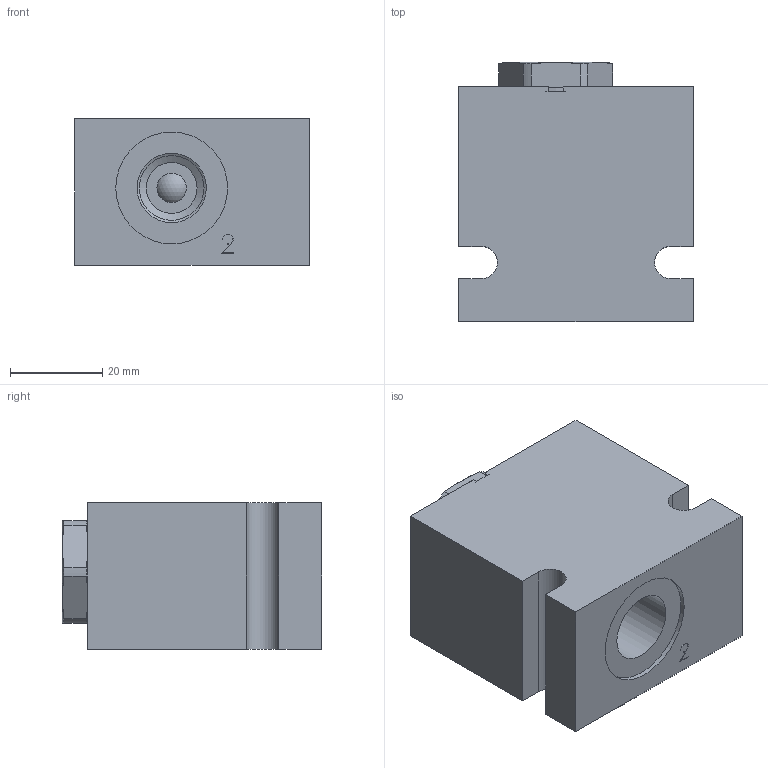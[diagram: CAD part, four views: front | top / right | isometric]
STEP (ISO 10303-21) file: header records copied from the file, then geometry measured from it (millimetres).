
FILE_DESCRIPTION( ( 'Unknown' ), '1' );
FILE_NAME( 'G:/Graphic Design/Graphic Design 2/Data Sheets/MANUAL_MECH OPERATED VALVES/4_STEP/Direct Acting Check Valves/D-PBCVC00-B2.stp', 'Unknown', ( 'Unknown' ), ( 'Unknown' ), 'PSStep 16.0.42', 'Unknown', ' ' );
FILE_SCHEMA( ( 'AUTOMOTIVE_DESIGN { 1 0 10303 214 1 1 1 1 }' ) );
Length unit declared in the file: millimetre
Products named in the file (7): PBCVC00; PBCVC00-3D Full1; PBCVC00-3D Full2; PBCVC00-3D Full3; PBCVC00-3D Full4; Assem1; B-DPBB2
Assembly tree (6 placements, depth 3):
  Assem1
    B-DPBB2
    PBCVC00
      PBCVC00-3D Full1
      PBCVC00-3D Full2
      PBCVC00-3D Full3
      PBCVC00-3D Full4
Bounding box: 50.8 x 56.18 x 31.75 mm (x, y, z)
Surface area: 19465.2 mm2 (no closed solid volume)
Topology: 0 solids, 153 shells, 153 faces, 662 edges, 603 vertices
Faces by surface type: plane 74, cylinder 38, cone 35, torus 5, sphere 1
Full cylindrical faces by diameter (mm): 0.2 x2, 4.775 x4, 6.35 x1, 9.5 x1, 9.842 x1, 9.928 x1, 10.16 x1, 10.5 x1, 11 x1, 12.62 x1, 12.624 x2, 12.7 x1, 14 x1, 15 x4, 15.849 x1, 16.751 x1, 17.33 x2, 22.225 x1, 24.2 x2
Entity records: 8422 total; most frequent: CARTESIAN_POINT 2623, DIRECTION 880, VERTEX_POINT 582, ORIENTED_EDGE 580, EDGE_CURVE 580, AXIS2_PLACEMENT_3D 355, FACE_BOUND 236, EDGE_LOOP 234
